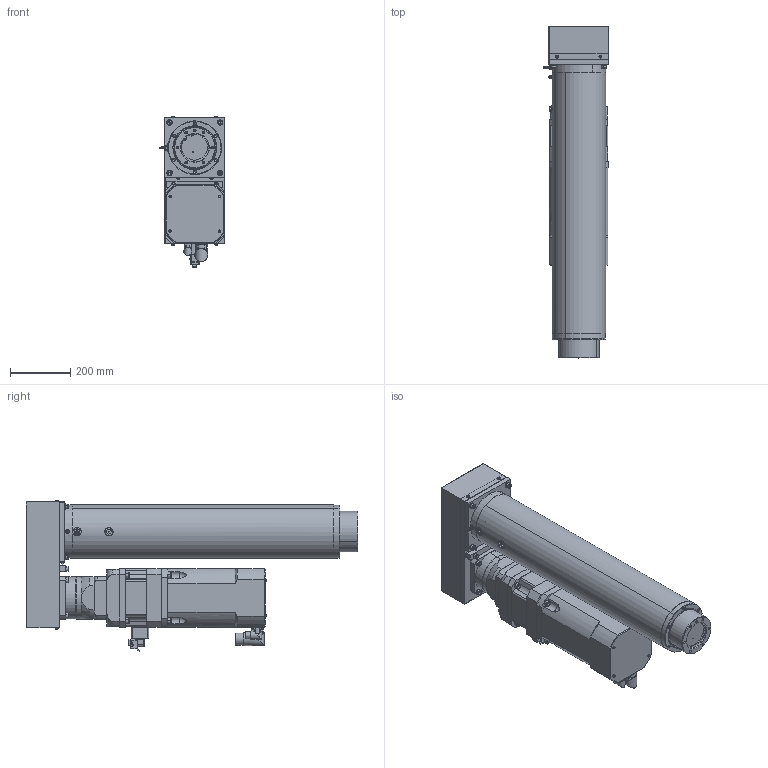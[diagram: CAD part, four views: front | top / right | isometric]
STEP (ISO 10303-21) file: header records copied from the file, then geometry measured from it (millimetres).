
FILE_DESCRIPTION (( 'STEP AP203' ), '1' );
FILE_NAME ('LN5P1000-055-020SG.STEP', '2019-01-31T12:57:45', ( '' ), ( '' ), 'SwSTEP 2.0', 'SolidWorks 2016', '' );
FILE_SCHEMA (( 'CONFIG_CONTROL_DESIGN' ));
Products named in the file (1): LN5P1000-055-020SG
Bounding box: 218.14 x 1103.5 x 502.14 mm (x, y, z)
Volume: 38814916.1 mm3; surface area: 3270347.3 mm2
Topology: 49 solids, 49 shells, 1753 faces, 4120 edges, 2481 vertices
Faces by surface type: plane 720, cylinder 634, cone 269, torus 98, bspline 30, sphere 2
Entity records: 51508 total; most frequent: CARTESIAN_POINT 10938, DIRECTION 8972, ORIENTED_EDGE 7916, EDGE_CURVE 3958, AXIS2_PLACEMENT_3D 3455, VERTEX_POINT 2481, EDGE_LOOP 2065, VECTOR 2062
